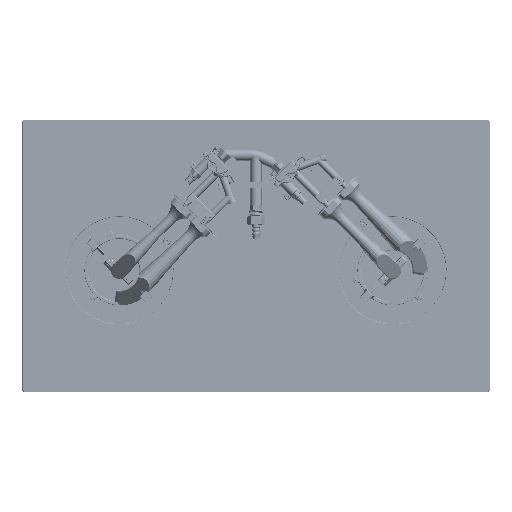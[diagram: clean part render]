
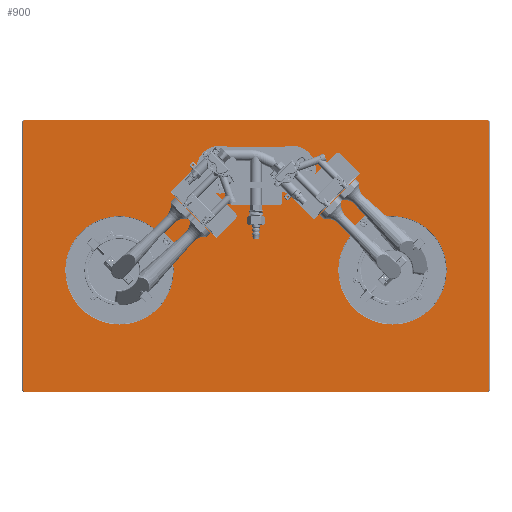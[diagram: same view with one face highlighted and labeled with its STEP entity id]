
A CAD part, front view. The second image highlights one B-rep face of the part: STEP entity #900.
In plain terms, the highlighted planar face has unit normal (0, -1, 0).
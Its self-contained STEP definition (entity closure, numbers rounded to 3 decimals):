
#1=CARTESIAN_POINT('',(355.,0.,205.));
#2=DIRECTION('',(0.,1.,0.));
#3=DIRECTION('',(0.,0.,1.));
#4=AXIS2_PLACEMENT_3D('',#1,#2,#3);
#6=DIRECTION('',(0.,0.,-1.));
#7=VECTOR('',#6,410.);
#8=CARTESIAN_POINT('',(359.,0.,205.));
#9=LINE('',#8,#7);
#10=CARTESIAN_POINT('',(355.,0.,-205.));
#11=DIRECTION('',(0.,1.,0.));
#12=DIRECTION('',(1.,0.,0.));
#13=AXIS2_PLACEMENT_3D('',#10,#11,#12);
#15=DIRECTION('',(-1.,0.,0.));
#16=VECTOR('',#15,710.);
#17=CARTESIAN_POINT('',(355.,0.,-209.));
#18=LINE('',#17,#16);
#19=CARTESIAN_POINT('',(-355.,0.,-205.));
#20=DIRECTION('',(0.,1.,0.));
#21=DIRECTION('',(0.,0.,-1.));
#22=AXIS2_PLACEMENT_3D('',#19,#20,#21);
#24=DIRECTION('',(0.,0.,1.));
#25=VECTOR('',#24,410.);
#26=CARTESIAN_POINT('',(-359.,0.,-205.));
#27=LINE('',#26,#25);
#28=CARTESIAN_POINT('',(-355.,0.,205.));
#29=DIRECTION('',(0.,1.,0.));
#30=DIRECTION('',(-1.,0.,0.));
#31=AXIS2_PLACEMENT_3D('',#28,#29,#30);
#33=DIRECTION('',(1.,0.,0.));
#34=VECTOR('',#33,710.);
#35=CARTESIAN_POINT('',(-355.,0.,209.));
#36=LINE('',#35,#34);
#37=CARTESIAN_POINT('',(210.,0.,-22.));
#38=DIRECTION('',(0.,-1.,0.));
#39=DIRECTION('',(1.,0.,0.));
#40=AXIS2_PLACEMENT_3D('',#37,#38,#39);
#42=CARTESIAN_POINT('',(210.,0.,-22.));
#43=DIRECTION('',(0.,-1.,0.));
#44=DIRECTION('',(1.,0.,0.002));
#45=AXIS2_PLACEMENT_3D('',#42,#43,#44);
#47=CARTESIAN_POINT('',(210.,0.,-22.));
#48=DIRECTION('',(0.,-1.,0.));
#49=DIRECTION('',(-1.,0.,0.));
#50=AXIS2_PLACEMENT_3D('',#47,#48,#49);
#52=CARTESIAN_POINT('',(210.,0.,-22.));
#53=DIRECTION('',(0.,-1.,0.));
#54=DIRECTION('',(-1.,0.,-0.002));
#55=AXIS2_PLACEMENT_3D('',#52,#53,#54);
#57=CARTESIAN_POINT('',(55.,0.,133.));
#58=DIRECTION('',(0.,-1.,0.));
#59=DIRECTION('',(1.,0.,0.));
#60=AXIS2_PLACEMENT_3D('',#57,#58,#59);
#62=CARTESIAN_POINT('',(55.,0.,133.));
#63=DIRECTION('',(0.,-1.,0.));
#64=DIRECTION('',(1.,0.,0.013));
#65=AXIS2_PLACEMENT_3D('',#62,#63,#64);
#67=CARTESIAN_POINT('',(55.,0.,133.));
#68=DIRECTION('',(0.,-1.,0.));
#69=DIRECTION('',(-1.,0.,0.));
#70=AXIS2_PLACEMENT_3D('',#67,#68,#69);
#72=CARTESIAN_POINT('',(55.,0.,133.));
#73=DIRECTION('',(0.,-1.,0.));
#74=DIRECTION('',(-1.,0.,-0.013));
#75=AXIS2_PLACEMENT_3D('',#72,#73,#74);
#77=CARTESIAN_POINT('',(-55.,0.,133.));
#78=DIRECTION('',(0.,-1.,0.));
#79=DIRECTION('',(1.,0.,0.));
#80=AXIS2_PLACEMENT_3D('',#77,#78,#79);
#82=CARTESIAN_POINT('',(-55.,0.,133.));
#83=DIRECTION('',(0.,-1.,0.));
#84=DIRECTION('',(1.,0.,0.013));
#85=AXIS2_PLACEMENT_3D('',#82,#83,#84);
#87=CARTESIAN_POINT('',(-55.,0.,133.));
#88=DIRECTION('',(0.,-1.,0.));
#89=DIRECTION('',(-1.,0.,0.));
#90=AXIS2_PLACEMENT_3D('',#87,#88,#89);
#92=CARTESIAN_POINT('',(-55.,0.,133.));
#93=DIRECTION('',(0.,-1.,0.));
#94=DIRECTION('',(-1.,0.,-0.013));
#95=AXIS2_PLACEMENT_3D('',#92,#93,#94);
#97=CARTESIAN_POINT('',(-210.,0.,-22.));
#98=DIRECTION('',(0.,-1.,0.));
#99=DIRECTION('',(1.,0.,0.));
#100=AXIS2_PLACEMENT_3D('',#97,#98,#99);
#102=CARTESIAN_POINT('',(-210.,0.,-22.));
#103=DIRECTION('',(0.,-1.,0.));
#104=DIRECTION('',(1.,0.,0.002));
#105=AXIS2_PLACEMENT_3D('',#102,#103,#104);
#107=CARTESIAN_POINT('',(-210.,0.,-22.));
#108=DIRECTION('',(0.,-1.,0.));
#109=DIRECTION('',(-1.,0.,0.));
#110=AXIS2_PLACEMENT_3D('',#107,#108,#109);
#112=CARTESIAN_POINT('',(-210.,0.,-22.));
#113=DIRECTION('',(0.,-1.,0.));
#114=DIRECTION('',(-1.,0.,-0.002));
#115=AXIS2_PLACEMENT_3D('',#112,#113,#114);
#653=CARTESIAN_POINT('',(355.,0.,209.));
#654=CARTESIAN_POINT('',(359.,0.,205.));
#655=VERTEX_POINT('',#653);
#656=VERTEX_POINT('',#654);
#657=CARTESIAN_POINT('',(359.,0.,-205.));
#658=VERTEX_POINT('',#657);
#659=CARTESIAN_POINT('',(355.,0.,-209.));
#660=VERTEX_POINT('',#659);
#661=CARTESIAN_POINT('',(-355.,0.,
-209.));
#662=VERTEX_POINT('',#661);
#663=CARTESIAN_POINT('',(-359.,0.,
-205.));
#664=VERTEX_POINT('',#663);
#665=CARTESIAN_POINT('',(-359.,0.,205.));
#666=VERTEX_POINT('',#665);
#667=CARTESIAN_POINT('',(-355.,0.,209.));
#668=VERTEX_POINT('',#667);
#669=CARTESIAN_POINT('',(293.5,0.,-21.844));
#670=CARTESIAN_POINT('',(126.5,0.,-22.));
#671=VERTEX_POINT('',#669);
#672=VERTEX_POINT('',#670);
#673=CARTESIAN_POINT('',(293.5,0.,-22.));
#674=VERTEX_POINT('',#673);
#675=CARTESIAN_POINT('',(126.5,0.,-22.156));
#676=VERTEX_POINT('',#675);
#677=CARTESIAN_POINT('',(67.999,0.,133.167));
#678=CARTESIAN_POINT('',(42.,0.,133.));
#679=VERTEX_POINT('',#677);
#680=VERTEX_POINT('',#678);
#681=CARTESIAN_POINT('',(68.,0.,133.));
#682=VERTEX_POINT('',#681);
#683=CARTESIAN_POINT('',(42.001,0.,132.833));
#684=VERTEX_POINT('',#683);
#685=CARTESIAN_POINT('',(-42.001,0.,133.167));
#686=CARTESIAN_POINT('',(-68.,0.,133.));
#687=VERTEX_POINT('',#685);
#688=VERTEX_POINT('',#686);
#689=CARTESIAN_POINT('',(-42.,0.,133.));
#690=VERTEX_POINT('',#689);
#691=CARTESIAN_POINT('',(-67.999,0.,132.833));
#692=VERTEX_POINT('',#691);
#693=CARTESIAN_POINT('',(-126.5,0.,-21.844));
#694=CARTESIAN_POINT('',(-293.5,0.,-22.));
#695=VERTEX_POINT('',#693);
#696=VERTEX_POINT('',#694);
#697=CARTESIAN_POINT('',(-126.5,0.,-22.));
#698=VERTEX_POINT('',#697);
#699=CARTESIAN_POINT('',(-293.5,0.,-22.156));
#700=VERTEX_POINT('',#699);
#837=CARTESIAN_POINT('',(0.,0.,0.));
#838=DIRECTION('',(0.,1.,0.));
#839=DIRECTION('',(1.,0.,0.));
#840=AXIS2_PLACEMENT_3D('',#837,#838,#839);
#841=PLANE('',#840);
#843=ORIENTED_EDGE('',*,*,#842,.T.);
#845=ORIENTED_EDGE('',*,*,#844,.T.);
#847=ORIENTED_EDGE('',*,*,#846,.T.);
#849=ORIENTED_EDGE('',*,*,#848,.T.);
#851=ORIENTED_EDGE('',*,*,#850,.T.);
#853=ORIENTED_EDGE('',*,*,#852,.T.);
#855=ORIENTED_EDGE('',*,*,#854,.T.);
#857=ORIENTED_EDGE('',*,*,#856,.T.);
#858=EDGE_LOOP('',(#843,#845,#847,#849,#851,#853,#855,#857));
#859=FACE_OUTER_BOUND('',#858,.F.);
#861=ORIENTED_EDGE('',*,*,#860,.T.);
#863=ORIENTED_EDGE('',*,*,#862,.T.);
#865=ORIENTED_EDGE('',*,*,#864,.T.);
#867=ORIENTED_EDGE('',*,*,#866,.T.);
#868=EDGE_LOOP('',(#861,#863,#865,#867));
#869=FACE_BOUND('',#868,.F.);
#871=ORIENTED_EDGE('',*,*,#870,.T.);
#873=ORIENTED_EDGE('',*,*,#872,.T.);
#875=ORIENTED_EDGE('',*,*,#874,.T.);
#877=ORIENTED_EDGE('',*,*,#876,.T.);
#878=EDGE_LOOP('',(#871,#873,#875,#877));
#879=FACE_BOUND('',#878,.F.);
#881=ORIENTED_EDGE('',*,*,#880,.T.);
#883=ORIENTED_EDGE('',*,*,#882,.T.);
#885=ORIENTED_EDGE('',*,*,#884,.T.);
#887=ORIENTED_EDGE('',*,*,#886,.T.);
#888=EDGE_LOOP('',(#881,#883,#885,#887));
#889=FACE_BOUND('',#888,.F.);
#891=ORIENTED_EDGE('',*,*,#890,.T.);
#893=ORIENTED_EDGE('',*,*,#892,.T.);
#895=ORIENTED_EDGE('',*,*,#894,.T.);
#897=ORIENTED_EDGE('',*,*,#896,.T.);
#898=EDGE_LOOP('',(#891,#893,#895,#897));
#899=FACE_BOUND('',#898,.F.);
#900=ADVANCED_FACE('',(#859,#869,#879,#889,#899),#841,.F.);
#5=CIRCLE('',#4,4.);
#14=CIRCLE('',#13,4.);
#23=CIRCLE('',#22,4.);
#32=CIRCLE('',#31,4.);
#41=CIRCLE('',#40,83.5);
#46=CIRCLE('',#45,83.5);
#51=CIRCLE('',#50,83.5);
#56=CIRCLE('',#55,83.5);
#61=CIRCLE('',#60,13.);
#66=CIRCLE('',#65,13.);
#71=CIRCLE('',#70,13.);
#76=CIRCLE('',#75,13.);
#81=CIRCLE('',#80,13.);
#86=CIRCLE('',#85,13.);
#91=CIRCLE('',#90,13.);
#96=CIRCLE('',#95,13.);
#101=CIRCLE('',#100,83.5);
#106=CIRCLE('',#105,83.5);
#111=CIRCLE('',#110,83.5);
#116=CIRCLE('',#115,83.5);
#842=EDGE_CURVE('',#655,#656,#5,.T.);
#844=EDGE_CURVE('',#656,#658,#9,.T.);
#846=EDGE_CURVE('',#658,#660,#14,.T.);
#848=EDGE_CURVE('',#660,#662,#18,.T.);
#850=EDGE_CURVE('',#662,#664,#23,.T.);
#852=EDGE_CURVE('',#664,#666,#27,.T.);
#854=EDGE_CURVE('',#666,#668,#32,.T.);
#856=EDGE_CURVE('',#668,#655,#36,.T.);
#860=EDGE_CURVE('',#674,#671,#41,.T.);
#862=EDGE_CURVE('',#671,#672,#46,.T.);
#864=EDGE_CURVE('',#672,#676,#51,.T.);
#866=EDGE_CURVE('',#676,#674,#56,.T.);
#870=EDGE_CURVE('',#682,#679,#61,.T.);
#872=EDGE_CURVE('',#679,#680,#66,.T.);
#874=EDGE_CURVE('',#680,#684,#71,.T.);
#876=EDGE_CURVE('',#684,#682,#76,.T.);
#880=EDGE_CURVE('',#690,#687,#81,.T.);
#882=EDGE_CURVE('',#687,#688,#86,.T.);
#884=EDGE_CURVE('',#688,#692,#91,.T.);
#886=EDGE_CURVE('',#692,#690,#96,.T.);
#890=EDGE_CURVE('',#698,#695,#101,.T.);
#892=EDGE_CURVE('',#695,#696,#106,.T.);
#894=EDGE_CURVE('',#696,#700,#111,.T.);
#896=EDGE_CURVE('',#700,#698,#116,.T.);
